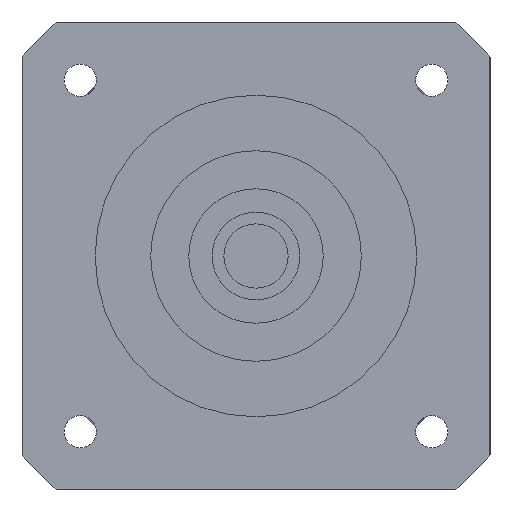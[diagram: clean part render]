
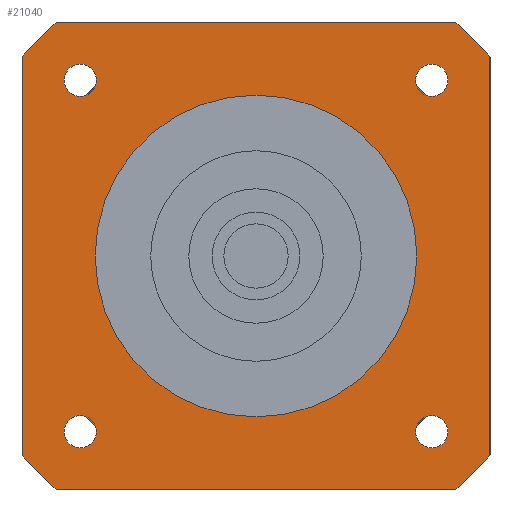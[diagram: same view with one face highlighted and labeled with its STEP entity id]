
A CAD part, left-side view. The second image highlights one B-rep face of the part: STEP entity #21040.
In plain terms, the highlighted planar face has unit normal (-1, 0, 0) as drawn and (0, 0, -1) by its records, which use the part's own axes.
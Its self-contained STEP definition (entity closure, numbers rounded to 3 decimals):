
#19410=CARTESIAN_POINT('',(30.052,32.802,-42.));
#19420=VERTEX_POINT('',#19410);
#19500=CARTESIAN_POINT('',(30.052,27.302,-42.));
#19510=VERTEX_POINT('',#19500);
#19540=CARTESIAN_POINT('',(30.052,30.052,-42.));
#19550=DIRECTION('',(0.,0.,1.));
#19560=DIRECTION('',(0.,1.,0.));
#19570=AXIS2_PLACEMENT_3D('',#19540,#19550,#19560);
#19580=CIRCLE('',#19570,2.75);
#19590=EDGE_CURVE('',#19510,#19420,#19580,.T.);
#19640=CARTESIAN_POINT('',(40.,-40.,-42.));
#19650=DIRECTION('',(0.,0.,1.));
#19660=DIRECTION('',(0.,1.,0.));
#19670=AXIS2_PLACEMENT_3D('',#19640,#19650,#19660);
#19680=PLANE('',#19670);
#19690=CARTESIAN_POINT('',(-30.052,-30.052,-42.));
#19700=DIRECTION('',(0.,0.,1.));
#19710=DIRECTION('',(0.,1.,0.));
#19720=AXIS2_PLACEMENT_3D('',#19690,#19700,#19710);
#19730=CIRCLE('',#19720,2.75);
#19740=CARTESIAN_POINT('',(-30.052,-27.302,-42.));
#19750=VERTEX_POINT('',#19740);
#19760=CARTESIAN_POINT('',(-30.052,-32.802,-42.));
#19770=VERTEX_POINT('',#19760);
#19780=EDGE_CURVE('',#19750,#19770,#19730,.T.);
#19790=ORIENTED_EDGE('',*,*,#19780,.T.);
#19800=EDGE_CURVE('',#19770,#19750,#19730,.T.);
#19810=ORIENTED_EDGE('',*,*,#19800,.T.);
#19820=EDGE_LOOP('',(#19810,#19790));
#19830=FACE_BOUND('',#19820,.T.);
#19840=EDGE_CURVE('',#19420,#19510,#19580,.T.);
#19850=ORIENTED_EDGE('',*,*,#19840,.T.);
#19860=ORIENTED_EDGE('',*,*,#19590,.T.);
#19870=EDGE_LOOP('',(#19860,#19850));
#19880=FACE_BOUND('',#19870,.T.);
#19890=CARTESIAN_POINT('',(-30.052,30.052,-42.));
#19900=DIRECTION('',(0.,0.,1.));
#19910=DIRECTION('',(0.,1.,0.));
#19920=AXIS2_PLACEMENT_3D('',#19890,#19900,#19910);
#19930=CIRCLE('',#19920,2.75);
#19940=CARTESIAN_POINT('',(-30.052,32.802,-42.));
#19950=VERTEX_POINT('',#19940);
#19960=CARTESIAN_POINT('',(-30.052,27.302,-42.));
#19970=VERTEX_POINT('',#19960);
#19980=EDGE_CURVE('',#19950,#19970,#19930,.T.);
#19990=ORIENTED_EDGE('',*,*,#19980,.T.);
#20000=EDGE_CURVE('',#19970,#19950,#19930,.T.);
#20010=ORIENTED_EDGE('',*,*,#20000,.T.);
#20020=EDGE_LOOP('',(#20010,#19990));
#20030=FACE_BOUND('',#20020,.T.);
#20040=CARTESIAN_POINT('',(0.,0.,
-42.));
#20050=DIRECTION('',(0.,0.,1.));
#20060=DIRECTION('',(0.,-1.,0.));
#20070=AXIS2_PLACEMENT_3D('',#20040,#20050,#20060);
#20080=CIRCLE('',#20070,27.5);
#20090=CARTESIAN_POINT('',(0.,-27.5,-42.));
#20100=VERTEX_POINT('',#20090);
#20110=CARTESIAN_POINT('',(0.,27.5,-42.));
#20120=VERTEX_POINT('',#20110);
#20130=EDGE_CURVE('',#20100,#20120,#20080,.T.);
#20140=ORIENTED_EDGE('',*,*,#20130,.T.);
#20150=EDGE_CURVE('',#20120,#20100,#20080,.T.);
#20160=ORIENTED_EDGE('',*,*,#20150,.T.);
#20170=EDGE_LOOP('',(#20160,#20140));
#20180=FACE_BOUND('',#20170,.T.);
#20190=CARTESIAN_POINT('',(30.052,-30.052,-42.));
#20200=DIRECTION('',(0.,0.,1.));
#20210=DIRECTION('',(0.,1.,0.));
#20220=AXIS2_PLACEMENT_3D('',#20190,#20200,#20210);
#20230=CIRCLE('',#20220,2.75);
#20240=CARTESIAN_POINT('',(30.052,-27.302,-42.));
#20250=VERTEX_POINT('',#20240);
#20260=CARTESIAN_POINT('',(30.052,-32.802,-42.));
#20270=VERTEX_POINT('',#20260);
#20280=EDGE_CURVE('',#20250,#20270,#20230,.T.);
#20290=ORIENTED_EDGE('',*,*,#20280,.T.);
#20300=EDGE_CURVE('',#20270,#20250,#20230,.T.);
#20310=ORIENTED_EDGE('',*,*,#20300,.T.);
#20320=EDGE_LOOP('',(#20310,#20290));
#20330=FACE_BOUND('',#20320,.T.);
#20340=CARTESIAN_POINT('',(0.,0.,
-42.));
#20350=DIRECTION('',(0.,0.,1.));
#20360=DIRECTION('',(0.,1.,0.));
#20370=AXIS2_PLACEMENT_3D('',#20340,#20350,#20360);
#20380=CIRCLE('',#20370,52.5);
#20390=CARTESIAN_POINT('',(-34.004,40.,-42.));
#20400=VERTEX_POINT('',#20390);
#20410=CARTESIAN_POINT('',(-40.,34.004,-42.));
#20420=VERTEX_POINT('',#20410);
#20430=EDGE_CURVE('',#20400,#20420,#20380,.T.);
#20440=ORIENTED_EDGE('',*,*,#20430,.F.);
#20450=CARTESIAN_POINT('',(-40.,40.,-42.));
#20460=DIRECTION('',(0.,-1.,0.));
#20470=VECTOR('',#20460,1000.);
#20480=LINE('',#20450,#20470);
#20490=CARTESIAN_POINT('',(-40.,-34.004,-42.));
#20500=VERTEX_POINT('',#20490);
#20510=EDGE_CURVE('',#20420,#20500,#20480,.T.);
#20520=ORIENTED_EDGE('',*,*,#20510,.F.);
#20530=CARTESIAN_POINT('',(0.,0.,
-42.));
#20540=DIRECTION('',(0.,0.,1.));
#20550=DIRECTION('',(0.,1.,0.));
#20560=AXIS2_PLACEMENT_3D('',#20530,#20540,#20550);
#20570=CIRCLE('',#20560,52.5);
#20580=CARTESIAN_POINT('',(-34.004,-40.,-42.));
#20590=VERTEX_POINT('',#20580);
#20600=EDGE_CURVE('',#20500,#20590,#20570,.T.);
#20610=ORIENTED_EDGE('',*,*,#20600,.F.);
#20620=CARTESIAN_POINT('',(-40.,-40.,-42.));
#20630=DIRECTION('',(1.,0.,0.));
#20640=VECTOR('',#20630,1000.);
#20650=LINE('',#20620,#20640);
#20660=CARTESIAN_POINT('',(34.004,-40.,-42.));
#20670=VERTEX_POINT('',#20660);
#20680=EDGE_CURVE('',#20590,#20670,#20650,.T.);
#20690=ORIENTED_EDGE('',*,*,#20680,.F.);
#20700=CARTESIAN_POINT('',(0.,0.,
-42.));
#20710=DIRECTION('',(0.,0.,1.));
#20720=DIRECTION('',(0.,1.,0.));
#20730=AXIS2_PLACEMENT_3D('',#20700,#20710,#20720);
#20740=CIRCLE('',#20730,52.5);
#20750=CARTESIAN_POINT('',(40.,-34.004,-42.));
#20760=VERTEX_POINT('',#20750);
#20770=EDGE_CURVE('',#20670,#20760,#20740,.T.);
#20780=ORIENTED_EDGE('',*,*,#20770,.F.);
#20790=CARTESIAN_POINT('',(40.,-40.,-42.));
#20800=DIRECTION('',(0.,1.,0.));
#20810=VECTOR('',#20800,1000.);
#20820=LINE('',#20790,#20810);
#20830=CARTESIAN_POINT('',(40.,34.004,-42.));
#20840=VERTEX_POINT('',#20830);
#20850=EDGE_CURVE('',#20760,#20840,#20820,.T.);
#20860=ORIENTED_EDGE('',*,*,#20850,.F.);
#20870=CARTESIAN_POINT('',(0.,0.,
-42.));
#20880=DIRECTION('',(0.,0.,1.));
#20890=DIRECTION('',(0.,1.,0.));
#20900=AXIS2_PLACEMENT_3D('',#20870,#20880,#20890);
#20910=CIRCLE('',#20900,52.5);
#20920=CARTESIAN_POINT('',(34.004,40.,-42.));
#20930=VERTEX_POINT('',#20920);
#20940=EDGE_CURVE('',#20840,#20930,#20910,.T.);
#20950=ORIENTED_EDGE('',*,*,#20940,.F.);
#20960=CARTESIAN_POINT('',(40.,40.,-42.));
#20970=DIRECTION('',(-1.,0.,0.));
#20980=VECTOR('',#20970,1000.);
#20990=LINE('',#20960,#20980);
#21000=EDGE_CURVE('',#20930,#20400,#20990,.T.);
#21010=ORIENTED_EDGE('',*,*,#21000,.F.);
#21020=EDGE_LOOP('',(#21010,#20950,#20860,#20780,#20690,#20610,#20520,
#20440));
#21030=FACE_OUTER_BOUND('',#21020,.T.);
#21040=ADVANCED_FACE('',(#19830,#19880,#20030,#20180,#20330,#21030),
#19680,.F.);
